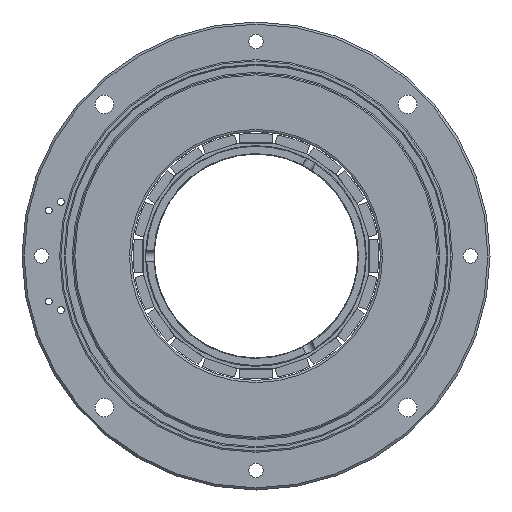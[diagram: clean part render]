
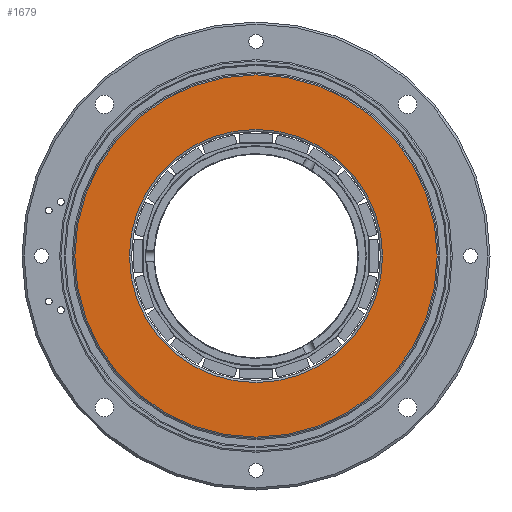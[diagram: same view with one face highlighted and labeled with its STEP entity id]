
A CAD part, left-side view. The second image highlights one B-rep face of the part: STEP entity #1679.
In plain terms, the highlighted planar face has unit normal (-1, 0, 0).
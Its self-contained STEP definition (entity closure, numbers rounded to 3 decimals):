
#77=CARTESIAN_POINT('',(-19.2,0.,0.));
#78=DIRECTION('',(-1.,0.,0.));
#79=DIRECTION('',(0.,1.,0.));
#80=AXIS2_PLACEMENT_3D('',#77,#78,#79);
#85=CARTESIAN_POINT('',(-19.2,0.,0.));
#86=DIRECTION('',(-1.,0.,0.));
#87=DIRECTION('',(0.,-1.,0.));
#88=AXIS2_PLACEMENT_3D('',#85,#86,#87);
#93=CARTESIAN_POINT('',(-19.2,0.,0.));
#94=DIRECTION('',(-1.,0.,0.));
#95=DIRECTION('',(0.,-1.,0.));
#96=AXIS2_PLACEMENT_3D('',#93,#94,#95);
#101=CARTESIAN_POINT('',(-19.2,0.,0.));
#102=DIRECTION('',(-1.,0.,0.));
#103=DIRECTION('',(0.,1.,0.));
#104=AXIS2_PLACEMENT_3D('',#101,#102,#103);
#1567=CARTESIAN_POINT('',(-19.2,41.8,0.));
#1568=CARTESIAN_POINT('',(-19.2,-41.8,0.));
#1569=VERTEX_POINT('',#1567);
#1570=VERTEX_POINT('',#1568);
#1595=CARTESIAN_POINT('',(-19.2,-29.215,0.));
#1596=CARTESIAN_POINT('',(-19.2,29.215,0.));
#1597=VERTEX_POINT('',#1595);
#1598=VERTEX_POINT('',#1596);
#1663=CARTESIAN_POINT('',(-19.2,0.,0.));
#1664=DIRECTION('',(-1.,0.,0.));
#1665=DIRECTION('',(0.,1.,0.));
#1666=AXIS2_PLACEMENT_3D('',#1663,#1664,#1665);
#1667=PLANE('',#1666);
#1668=ORIENTED_EDGE('',*,*,#1652,.F.);
#1670=ORIENTED_EDGE('',*,*,#1669,.F.);
#1671=EDGE_LOOP('',(#1668,#1670));
#1672=FACE_OUTER_BOUND('',#1671,.F.);
#1674=ORIENTED_EDGE('',*,*,#1673,.T.);
#1676=ORIENTED_EDGE('',*,*,#1675,.T.);
#1677=EDGE_LOOP('',(#1674,#1676));
#1678=FACE_BOUND('',#1677,.F.);
#1679=ADVANCED_FACE('',(#1672,#1678),#1667,.T.);
#81=CIRCLE('',#80,41.8);
#89=CIRCLE('',#88,41.8);
#97=CIRCLE('',#96,29.215);
#105=CIRCLE('',#104,29.215);
#1652=EDGE_CURVE('',#1569,#1570,#81,.T.);
#1669=EDGE_CURVE('',#1570,#1569,#89,.T.);
#1673=EDGE_CURVE('',#1597,#1598,#97,.T.);
#1675=EDGE_CURVE('',#1598,#1597,#105,.T.);
